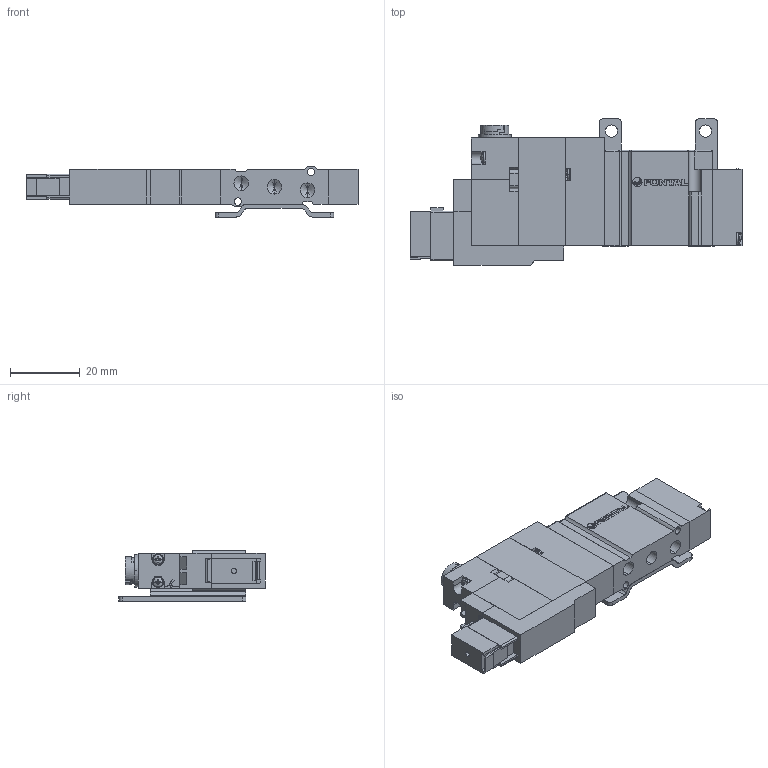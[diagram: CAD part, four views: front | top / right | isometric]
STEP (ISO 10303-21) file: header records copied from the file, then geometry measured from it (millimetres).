
FILE_DESCRIPTION (( 'STEP AP203' ), '1' );
FILE_NAME ('A05FS25#-BS-#-#-E.STEP', '2016-02-04T01:57:44', ( 'Sam Lin' ), ( '' ), 'SwSTEP 2.0', 'SolidWorks 2013', '' );
FILE_SCHEMA (( 'CONFIG_CONTROL_DESIGN' ));
Length unit declared in the file: metre
Products named in the file (16): A05RS25-6; A05FS25#-BS-#-#-E; DC24-A05F-1; DC24-A05G-3; A05RS25-1; DC24-A05F-2; ISO 7045 - M1.6 x 10; A05FS25-6; mark-ADEX-A05RS; A05FS25-2; A05RS25-3; A05FS25-3; A05RS25-4; A05RS25-12; A05RS25-5; A05FS25-5
Assembly tree (21 placements, depth 2):
  A05FS25#-BS-#-#-E
    A05RS25-1
    ISO 7045 - M1.6 x 10  x6
    mark-ADEX-A05RS
    A05RS25-3
    A05RS25-4
    A05RS25-5
    A05RS25-6  x2
    DC24-A05F-1
    DC24-A05G-3
    DC24-A05F-2
    A05FS25-6
    A05FS25-2
    A05FS25-3
    A05RS25-12
    A05FS25-5
Bounding box: 95.3 x 42 x 14.4 mm (x, y, z)
Volume: 25426.6 mm3; surface area: 17145.3 mm2
Topology: 29 solids, 29 shells, 730 faces, 1863 edges, 1183 vertices
Faces by surface type: plane 454, cylinder 156, cone 68, bspline 52
Entity records: 17878 total; most frequent: CARTESIAN_POINT 3529, ORIENTED_EDGE 2606, DIRECTION 2547, EDGE_CURVE 1303, VECTOR 937, LINE 937, VERTEX_POINT 855, AXIS2_PLACEMENT_3D 805
